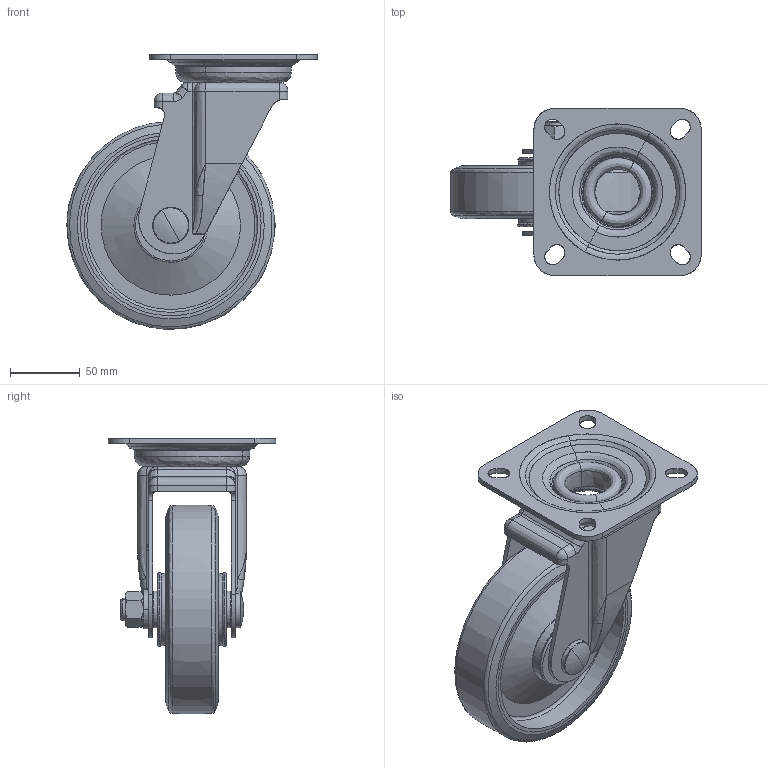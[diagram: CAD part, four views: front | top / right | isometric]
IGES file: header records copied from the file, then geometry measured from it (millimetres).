
Start section: JAMA-IS VERSION  1.0
Global section: file name: C:\CAM-TOOL data\ToolsFile\INOAC車輪\12月\P-150WJ\P-150WJ-igs.igs; native system: CAM-TOOL; preprocessor: C3out Version 11.1.1.50212 (2015/02/12); author: NONE; organization: NONE; date: 221224.220548; units: millimetre
Bounding box: 179.61 x 120 x 197.96 mm (x, y, z)
Surface area: 266170.7 mm2 (no closed solid volume)
Topology: 0 solids, 0 shells, 562 faces, 14269 edges, 14604 vertices
Faces by surface type: bspline 562
